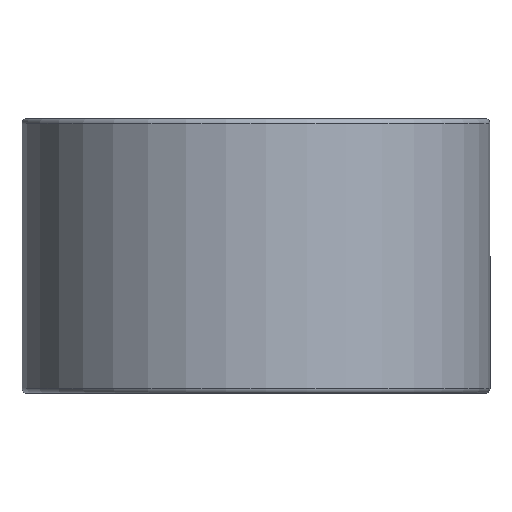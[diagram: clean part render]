
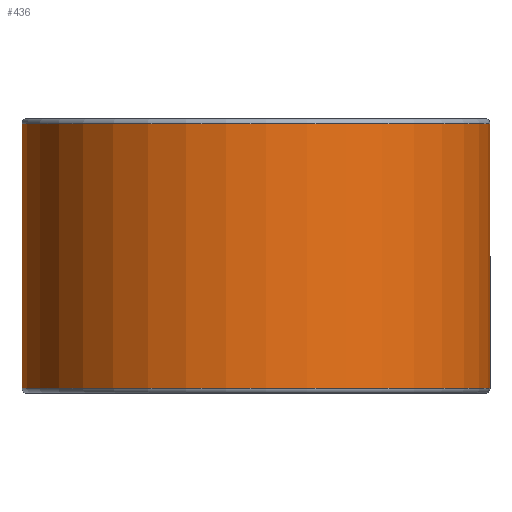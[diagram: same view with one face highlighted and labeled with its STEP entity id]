
A CAD part, front view. The second image highlights one B-rep face of the part: STEP entity #436.
In plain terms, the highlighted cylindrical face has radius 23 mm (diameter 46 mm), a full revolution.
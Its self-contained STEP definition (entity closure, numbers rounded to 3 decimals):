
#372=FACE_BOUND('',#578,.T.);
#373=FACE_BOUND('',#579,.T.);
#436=ADVANCED_FACE('',(#372,#373),#509,.T.);
#509=CYLINDRICAL_SURFACE('',#1414,23.);
#578=EDGE_LOOP('',(#753));
#579=EDGE_LOOP('',(#754));
#689=CIRCLE('',#1412,23.);
#690=CIRCLE('',#1413,23.);
#753=ORIENTED_EDGE('',*,*,#1125,.T.);
#754=ORIENTED_EDGE('',*,*,#1126,.T.);
#1025=VERTEX_POINT('',#1913);
#1026=VERTEX_POINT('',#1915);
#1125=EDGE_CURVE('',#1025,#1025,#689,.T.);
#1126=EDGE_CURVE('',#1026,#1026,#690,.T.);
#1412=AXIS2_PLACEMENT_3D('',#1912,#1565,#1566);
#1413=AXIS2_PLACEMENT_3D('',#1914,#1567,#1568);
#1414=AXIS2_PLACEMENT_3D('',#1916,#1569,#1570);
#1565=DIRECTION('',(0.,0.,-1.));
#1566=DIRECTION('',(1.,0.,0.));
#1567=DIRECTION('',(0.,0.,1.));
#1568=DIRECTION('',(1.,0.,0.));
#1569=DIRECTION('',(0.,0.,-1.));
#1570=DIRECTION('',(-1.,0.,0.));
#1912=CARTESIAN_POINT('',(0.,0.,26.5));
#1913=CARTESIAN_POINT('',(23.,0.,26.5));
#1914=CARTESIAN_POINT('',(0.,0.,0.5));
#1915=CARTESIAN_POINT('',(23.,0.,0.5));
#1916=CARTESIAN_POINT('',(0.,0.,27.));
